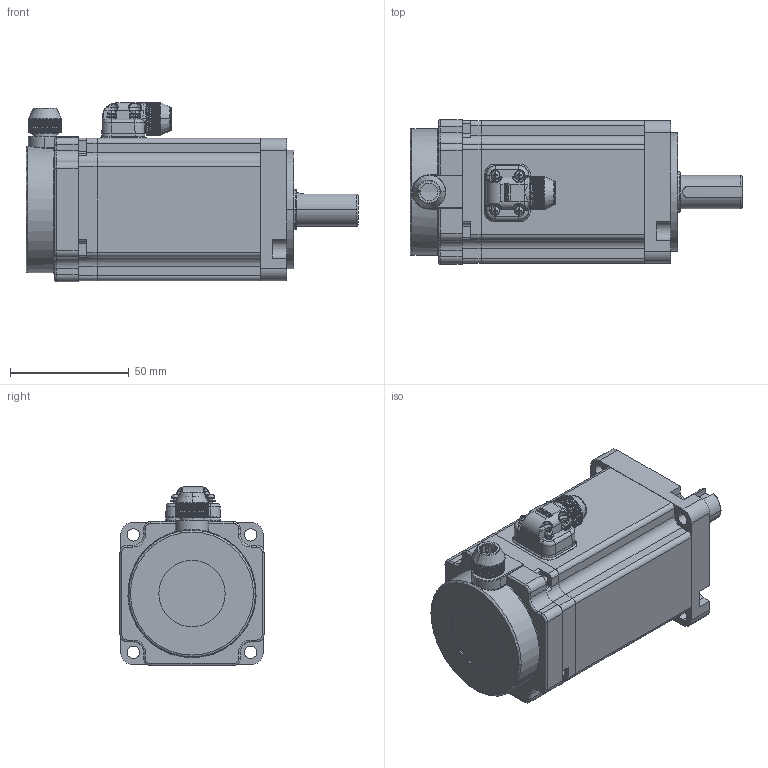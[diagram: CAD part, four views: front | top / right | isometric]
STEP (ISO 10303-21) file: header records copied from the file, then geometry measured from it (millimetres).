
FILE_DESCRIPTION((''),'2;1');
FILE_NAME('60C3_ASM_1_ASM','2020-08-06T',('PCBD'),(''),'PRO/ENGINEER BY PARAMETRIC TECHNOLOGY CORPORATION, 2010280','PRO/ENGINEER BY PARAMETRIC TECHNOLOGY CORPORATION, 2010280','');
FILE_SCHEMA(('CONFIG_CONTROL_DESIGN'));
Products named in the file (24): 60C3-JK_1; 60C--QG_1; 60C-HG_1; PRT0005_3; PRT0137_1; PRT0138_1; PRT0139_1; PRT0140_1; PRT0141_1; PRT0142_1; PRT0143_1; PRT0144_1; PRT0145_1; PRT0146_1; PRT0147_1; ASM0039_ASM_1_ASM; PRT0148_1; PRT0149_1; PRT0150_1; PRT0151_1; ASM0038_ASM_1_ASM; 60S-HZ-YF-2_9; LUOMU; 60C3_ASM_1_ASM
Assembly tree (44 placements, depth 4):
  60C3_ASM_1_ASM
    60C3-JK_1
    60C--QG_1
    60C-HG_1
    PRT0005_3
    ASM0038_ASM_1_ASM
      PRT0137_1
      PRT0138_1
      PRT0139_1
      PRT0140_1
      PRT0141_1
      PRT0142_1
      PRT0143_1
      PRT0144_1  x4
      ASM0039_ASM_1_ASM  x4
        PRT0145_1
        PRT0146_1
        PRT0147_1
      PRT0148_1
      PRT0149_1
      PRT0150_1  x8
      PRT0151_1  x9
    60S-HZ-YF-2_9
    LUOMU
Bounding box: 140 x 60.8 x 75.6 mm (x, y, z)
Volume: 139164 mm3; surface area: 89578.2 mm2
Topology: 48 solids, 48 shells, 6049 faces, 14943 edges, 8879 vertices
Faces by surface type: plane 3181, cylinder 1161, bspline 937, cone 436, sphere 156, torus 135, extrusion 34, revolution 9
Entity records: 139652 total; most frequent: CARTESIAN_POINT 53788, ORIENTED_EDGE 18692, DIRECTION 16260, EDGE_CURVE 9346, VERTEX_POINT 5797, VECTOR 5713, LINE 5693, AXIS2_PLACEMENT_3D 5273
